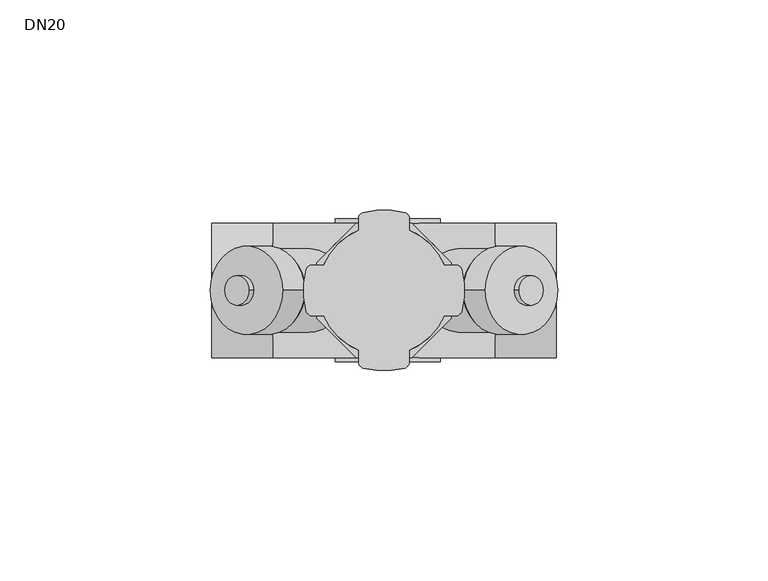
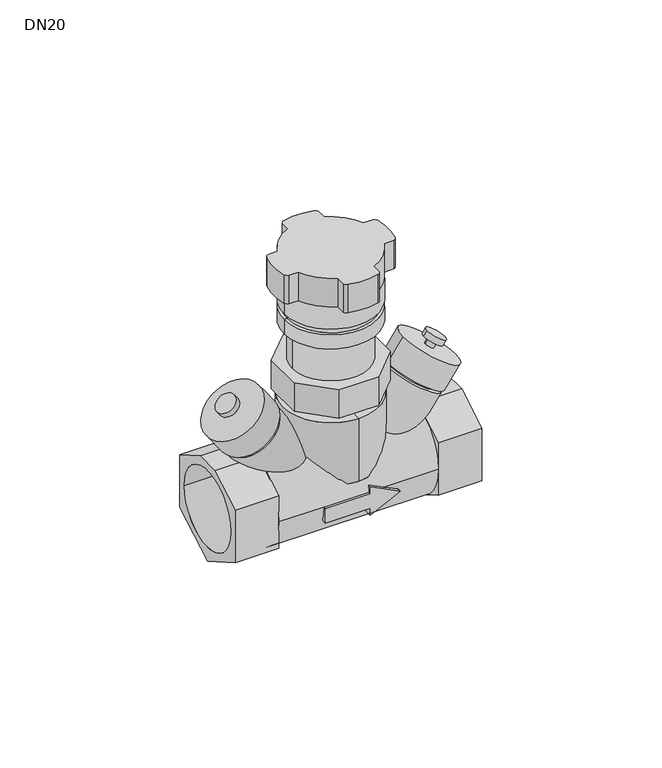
"""IFC4 building model written with IfcOpenShell, lengths in millimetres: valve geometry, 400_56_KOMF_ATZ : DN20."""

from ifc_helpers import new_model, si_unit, point, frame, frame_2d, origin, origin_2d, place, context, project, spatial, polyline, circle_curve, ellipse_curve, trimmed, segment, composite_curve, outline, extrude, source, transform, mapped, element, save
from ifc_brep_helpers import plane_surface, cylinder_surface, revolved_surface, advanced_brep


def dn20_bf711299(model_context):
    return source(origin(), model_context, "Body", "SolidModel", [
        advanced_brep(
        [(35.1614142, 0.0, 17.7961177), (18.7784319, 0.0, 29.2676054), (20.4167774, 0.0, 28.1204236), (33.5230687, 0.0, 18.9432996), (23.8246716, 0.0, 1.6055715), (7.4416893, 0.0, 13.0770591), (34.0966531, 0.0, 19.7624631), (20.9903618, 0.0, 28.9395871), (41.3067448, 0.0, 25.7008828), (24.1046544, 0.0, 37.7459162), (31.4768006, 0.0, 32.5838838), (33.9345986, 0.0, 30.8629152), (36.1445527, 0.0, 18.3285084), (18.9424623, 0.0, 30.3735418), (35.0817629, 0.0, 32.5012356), (32.623965, 0.0, 34.2222043), (37.867019, 0.0, 32.9924917), (32.132981, 0.0, 37.0075083), (36.719883, 0.0, 31.3542116), (30.985845, 0.0, 35.3692283)],
        [
            (0, 1, circle_curve(frame((26.969923, 0.0, 23.5318616), z_axis=(0.5735764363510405, 0.0, 0.8191520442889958), x_axis=(-0.8191520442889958, 0.0, 0.5735764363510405)), 9.9999642)),
            (1, 0, circle_curve(frame((26.969923, 0.0, 23.5318616), z_axis=(0.5735764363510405, 0.0, 0.8191520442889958), x_axis=(-0.8191520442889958, 0.0, 0.5735764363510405)), 9.9999642)),
            (2, 3, circle_curve(frame((26.969923, 0.0, 23.5318616), z_axis=(-0.5735764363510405, 0.0, -0.8191520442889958), x_axis=(-0.8191520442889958, 0.0, 0.5735764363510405)), 7.9999137)),
            (3, 2, circle_curve(frame((26.969923, 0.0, 23.5318616), z_axis=(-0.5735764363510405, 0.0, -0.8191520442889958), x_axis=(-0.8191520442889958, 0.0, 0.5735764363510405)), 7.9999137)),
            (4, 5, circle_curve(frame((15.6331805, 0.0, 7.3413153), z_axis=(-0.5735764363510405, 0.0, -0.8191520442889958), x_axis=(-0.8191520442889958, 0.0, 0.5735764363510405)), 9.9999642)),
            (5, 4, circle_curve(frame((15.6331805, 0.0, 7.3413153), z_axis=(-0.5735764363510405, 0.0, -0.8191520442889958), x_axis=(-0.8191520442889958, 0.0, 0.5735764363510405)), 9.9999642)),
            (1, 5),
            (4, 0),
            (6, 7, circle_curve(frame((27.5435075, 0.0, 24.3510251), z_axis=(-0.5735764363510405, 0.0, -0.8191520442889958), x_axis=(-0.8191520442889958, 0.0, 0.5735764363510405)), 7.9999137)),
            (7, 2),
            (3, 6),
            (7, 6, circle_curve(frame((27.5435075, 0.0, 24.3510251), z_axis=(-0.5735764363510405, 0.0, -0.8191520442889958), x_axis=(-0.8191520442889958, 0.0, 0.5735764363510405)), 7.9999137)),
            (8, 9, circle_curve(frame((32.7056996, 0.0, 31.7233995), z_axis=(0.5735764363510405, 0.0, 0.8191520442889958), x_axis=(-0.8191520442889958, 0.0, 0.5735764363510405)), 10.4999374)),
            (9, 8, circle_curve(frame((32.7056996, 0.0, 31.7233995), z_axis=(0.5735764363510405, 0.0, 0.8191520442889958), x_axis=(-0.8191520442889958, 0.0, 0.5735764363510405)), 10.4999374)),
            (10, 11, circle_curve(frame((32.7056996, 0.0, 31.7233995), z_axis=(-0.5735764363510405, 0.0, -0.8191520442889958), x_axis=(-0.8191520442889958, 0.0, 0.5735764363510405)), 1.5002086)),
            (11, 10, circle_curve(frame((32.7056996, 0.0, 31.7233995), z_axis=(-0.5735764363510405, 0.0, -0.8191520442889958), x_axis=(-0.8191520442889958, 0.0, 0.5735764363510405)), 1.5002086)),
            (12, 13, circle_curve(frame((27.5435075, 0.0, 24.3510251), z_axis=(-0.5735764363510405, 0.0, -0.8191520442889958), x_axis=(-0.8191520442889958, 0.0, 0.5735764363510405)), 10.4999374)),
            (13, 12, circle_curve(frame((27.5435075, 0.0, 24.3510251), z_axis=(-0.5735764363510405, 0.0, -0.8191520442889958), x_axis=(-0.8191520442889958, 0.0, 0.5735764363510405)), 10.4999374)),
            (9, 13),
            (12, 8),
            (14, 15, circle_curve(frame((33.852864, 0.0, 33.3617199), z_axis=(-0.5735764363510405, 0.0, -0.8191520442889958), x_axis=(-0.8191520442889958, 0.0, 0.5735764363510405)), 1.5002086)),
            (15, 10),
            (11, 14),
            (15, 14, circle_curve(frame((33.852864, 0.0, 33.3617199), z_axis=(-0.5735764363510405, 0.0, -0.8191520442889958), x_axis=(-0.8191520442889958, 0.0, 0.5735764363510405)), 1.5002086)),
            (16, 17, circle_curve(frame((35.0, 0.0, 35.0), z_axis=(0.5735764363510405, 0.0, 0.8191520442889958), x_axis=(-0.8191520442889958, 0.0, 0.5735764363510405)), 3.4999839)),
            (17, 16, circle_curve(frame((35.0, 0.0, 35.0), z_axis=(0.5735764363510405, 0.0, 0.8191520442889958), x_axis=(-0.8191520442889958, 0.0, 0.5735764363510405)), 3.4999839)),
            (18, 19, circle_curve(frame((33.852864, 0.0, 33.3617199), z_axis=(-0.5735764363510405, 0.0, -0.8191520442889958), x_axis=(-0.8191520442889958, 0.0, 0.5735764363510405)), 3.4999839)),
            (19, 18, circle_curve(frame((33.852864, 0.0, 33.3617199), z_axis=(-0.5735764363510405, 0.0, -0.8191520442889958), x_axis=(-0.8191520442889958, 0.0, 0.5735764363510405)), 3.4999839)),
            (17, 19),
            (18, 16),
        ],
        [
            plane_surface(frame((18.7784319, 0.0, 29.2676054), z_axis=(0.5735764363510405, 0.0, 0.8191520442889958), x_axis=(0.0, 1.0, 0.0))),
            plane_surface(frame((7.4416893, 0.0, 13.0770591), z_axis=(-0.5735764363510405, 0.0, -0.8191520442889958), x_axis=(0.0, -1.0, 0.0))),
            cylinder_surface(frame((15.6331805, 0.0, 7.3413153), z_axis=(0.5735764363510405, 0.0, 0.8191520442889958), x_axis=(-0.8191520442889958, 0.0, 0.5735764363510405)), 9.9999642),
            cylinder_surface(frame((18.939734, 0.0, 12.0635631), z_axis=(0.5735764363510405, 0.0, 0.8191520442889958), x_axis=(-0.8191520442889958, 0.0, 0.5735764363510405)), 7.9999137),
            plane_surface(frame((24.1046544, 0.0, 37.7459162), z_axis=(0.5735764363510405, 0.0, 0.8191520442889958), x_axis=(0.0, 1.0, 0.0))),
            plane_surface(frame((18.9424623, 0.0, 30.3735418), z_axis=(-0.5735764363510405, 0.0, -0.8191520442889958), x_axis=(0.0, -1.0, 0.0))),
            cylinder_surface(frame((27.5435075, 0.0, 24.3510251), z_axis=(0.5735764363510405, 0.0, 0.8191520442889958), x_axis=(-0.8191520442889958, 0.0, 0.5735764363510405)), 10.4999374),
            cylinder_surface(frame((32.7056996, 0.0, 31.7233995), z_axis=(0.5735764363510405, 0.0, 0.8191520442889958), x_axis=(-0.8191520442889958, 0.0, 0.5735764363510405)), 1.5002086),
            plane_surface(frame((32.132981, 0.0, 37.0075083), z_axis=(0.5735764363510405, 0.0, 0.8191520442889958), x_axis=(0.0, 1.0, 0.0))),
            plane_surface(frame((30.985845, 0.0, 35.3692283), z_axis=(-0.5735764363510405, 0.0, -0.8191520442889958), x_axis=(0.0, -1.0, 0.0))),
            cylinder_surface(frame((33.852864, 0.0, 33.3617199), z_axis=(0.5735764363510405, 0.0, 0.8191520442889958), x_axis=(-0.8191520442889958, 0.0, 0.5735764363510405)), 3.4999839),
        ],
        [
            (0, [[1, 2], [3, 4]]),
            (1, [[5, 6]]),
            (2, [[7, -5, 8, -2]]),
            (2, [[-8, -6, -7, -1]]),
            (3, [[9, 10, -4, 11]]),
            (3, [[-3, -10, 12, -11]]),
            (4, [[13, 14], [15, 16]]),
            (5, [[17, 18], [-12, -9]]),
            (6, [[19, -17, 20, -14]]),
            (6, [[-20, -18, -19, -13]]),
            (7, [[21, 22, -16, 23]]),
            (7, [[-15, -22, 24, -23]]),
            (8, [[25, 26]]),
            (9, [[27, 28], [-24, -21]]),
            (10, [[29, -27, 30, -26]]),
            (10, [[-30, -28, -29, -25]]),
        ],
    ),
        advanced_brep(
        [(-35.1614142, 0.0, 17.7961177), (-18.7784319, 0.0, 29.2676054), (-20.4167774, 0.0, 28.1204236), (-33.5230687, 0.0, 18.9432996), (-23.8246716, 0.0, 1.6055715), (-7.4416893, 0.0, 13.0770591), (-34.0966531, 0.0, 19.7624631), (-20.9903618, 0.0, 28.9395871), (-41.3067448, 0.0, 25.7008828), (-24.1046544, 0.0, 37.7459162), (-31.4768006, 0.0, 32.5838838), (-33.9345986, 0.0, 30.8629152), (-36.1445527, 0.0, 18.3285084), (-18.9424623, 0.0, 30.3735418), (-35.0817629, 0.0, 32.5012356), (-32.623965, 0.0, 34.2222043), (-37.867019, 0.0, 32.9924917), (-32.132981, 0.0, 37.0075083), (-36.719883, 0.0, 31.3542116), (-30.985845, 0.0, 35.3692283)],
        [
            (0, 1, circle_curve(frame((-26.969923, 0.0, 23.5318616), z_axis=(-0.5735764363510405, 0.0, 0.8191520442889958), x_axis=(0.8191520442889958, 0.0, 0.5735764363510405)), 9.9999642)),
            (1, 0, circle_curve(frame((-26.969923, 0.0, 23.5318616), z_axis=(-0.5735764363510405, 0.0, 0.8191520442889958), x_axis=(0.8191520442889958, 0.0, 0.5735764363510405)), 9.9999642)),
            (2, 3, circle_curve(frame((-26.969923, 0.0, 23.5318616), z_axis=(0.5735764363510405, 0.0, -0.8191520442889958), x_axis=(0.8191520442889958, 0.0, 0.5735764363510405)), 7.9999137)),
            (3, 2, circle_curve(frame((-26.969923, 0.0, 23.5318616), z_axis=(0.5735764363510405, 0.0, -0.8191520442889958), x_axis=(0.8191520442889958, 0.0, 0.5735764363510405)), 7.9999137)),
            (4, 5, circle_curve(frame((-15.6331805, 0.0, 7.3413153), z_axis=(0.5735764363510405, 0.0, -0.8191520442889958), x_axis=(0.8191520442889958, 0.0, 0.5735764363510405)), 9.9999642)),
            (5, 4, circle_curve(frame((-15.6331805, 0.0, 7.3413153), z_axis=(0.5735764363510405, 0.0, -0.8191520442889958), x_axis=(0.8191520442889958, 0.0, 0.5735764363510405)), 9.9999642)),
            (0, 4),
            (5, 1),
            (6, 3),
            (2, 7),
            (7, 6, circle_curve(frame((-27.5435075, 0.0, 24.3510251), z_axis=(0.5735764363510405, 0.0, -0.8191520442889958), x_axis=(0.8191520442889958, 0.0, 0.5735764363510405)), 7.9999137)),
            (6, 7, circle_curve(frame((-27.5435075, 0.0, 24.3510251), z_axis=(0.5735764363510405, 0.0, -0.8191520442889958), x_axis=(0.8191520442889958, 0.0, 0.5735764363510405)), 7.9999137)),
            (8, 9, circle_curve(frame((-32.7056996, 0.0, 31.7233995), z_axis=(-0.5735764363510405, 0.0, 0.8191520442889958), x_axis=(0.8191520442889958, 0.0, 0.5735764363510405)), 10.4999374)),
            (9, 8, circle_curve(frame((-32.7056996, 0.0, 31.7233995), z_axis=(-0.5735764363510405, 0.0, 0.8191520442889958), x_axis=(0.8191520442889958, 0.0, 0.5735764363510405)), 10.4999374)),
            (10, 11, circle_curve(frame((-32.7056996, 0.0, 31.7233995), z_axis=(0.5735764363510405, 0.0, -0.8191520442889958), x_axis=(0.8191520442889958, 0.0, 0.5735764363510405)), 1.5002086)),
            (11, 10, circle_curve(frame((-32.7056996, 0.0, 31.7233995), z_axis=(0.5735764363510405, 0.0, -0.8191520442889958), x_axis=(0.8191520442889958, 0.0, 0.5735764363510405)), 1.5002086)),
            (12, 13, circle_curve(frame((-27.5435075, 0.0, 24.3510251), z_axis=(0.5735764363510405, 0.0, -0.8191520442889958), x_axis=(0.8191520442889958, 0.0, 0.5735764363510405)), 10.4999374)),
            (13, 12, circle_curve(frame((-27.5435075, 0.0, 24.3510251), z_axis=(0.5735764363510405, 0.0, -0.8191520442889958), x_axis=(0.8191520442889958, 0.0, 0.5735764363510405)), 10.4999374)),
            (8, 12),
            (13, 9),
            (14, 11),
            (10, 15),
            (15, 14, circle_curve(frame((-33.852864, 0.0, 33.3617199), z_axis=(0.5735764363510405, 0.0, -0.8191520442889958), x_axis=(0.8191520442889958, 0.0, 0.5735764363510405)), 1.5002086)),
            (14, 15, circle_curve(frame((-33.852864, 0.0, 33.3617199), z_axis=(0.5735764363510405, 0.0, -0.8191520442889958), x_axis=(0.8191520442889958, 0.0, 0.5735764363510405)), 1.5002086)),
            (16, 17, circle_curve(frame((-35.0, 0.0, 35.0), z_axis=(-0.5735764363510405, 0.0, 0.8191520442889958), x_axis=(0.8191520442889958, 0.0, 0.5735764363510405)), 3.4999839)),
            (17, 16, circle_curve(frame((-35.0, 0.0, 35.0), z_axis=(-0.5735764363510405, 0.0, 0.8191520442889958), x_axis=(0.8191520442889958, 0.0, 0.5735764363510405)), 3.4999839)),
            (18, 19, circle_curve(frame((-33.852864, 0.0, 33.3617199), z_axis=(0.5735764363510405, 0.0, -0.8191520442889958), x_axis=(0.8191520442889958, 0.0, 0.5735764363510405)), 3.4999839)),
            (19, 18, circle_curve(frame((-33.852864, 0.0, 33.3617199), z_axis=(0.5735764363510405, 0.0, -0.8191520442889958), x_axis=(0.8191520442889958, 0.0, 0.5735764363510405)), 3.4999839)),
            (16, 18),
            (19, 17),
        ],
        [
            plane_surface(frame((-18.7784319, 0.0, 29.2676054), z_axis=(-0.5735764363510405, 0.0, 0.8191520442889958), x_axis=(0.0, 1.0, 0.0))),
            plane_surface(frame((-7.4416893, 0.0, 13.0770591), z_axis=(0.5735764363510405, 0.0, -0.8191520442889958), x_axis=(0.0, -1.0, 0.0))),
            cylinder_surface(frame((-15.6331805, 0.0, 7.3413153), z_axis=(-0.5735764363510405, 0.0, 0.8191520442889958), x_axis=(0.8191520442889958, 0.0, 0.5735764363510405)), 9.9999642),
            cylinder_surface(frame((-18.939734, 0.0, 12.0635631), z_axis=(-0.5735764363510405, 0.0, 0.8191520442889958), x_axis=(0.8191520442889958, 0.0, 0.5735764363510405)), 7.9999137),
            plane_surface(frame((-24.1046544, 0.0, 37.7459162), z_axis=(-0.5735764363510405, 0.0, 0.8191520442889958), x_axis=(0.0, 1.0, 0.0))),
            plane_surface(frame((-18.9424623, 0.0, 30.3735418), z_axis=(0.5735764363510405, 0.0, -0.8191520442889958), x_axis=(0.0, -1.0, 0.0))),
            cylinder_surface(frame((-27.5435075, 0.0, 24.3510251), z_axis=(-0.5735764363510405, 0.0, 0.8191520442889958), x_axis=(0.8191520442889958, 0.0, 0.5735764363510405)), 10.4999374),
            cylinder_surface(frame((-32.7056996, 0.0, 31.7233995), z_axis=(-0.5735764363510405, 0.0, 0.8191520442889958), x_axis=(0.8191520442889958, 0.0, 0.5735764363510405)), 1.5002086),
            plane_surface(frame((-32.132981, 0.0, 37.0075083), z_axis=(-0.5735764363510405, 0.0, 0.8191520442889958), x_axis=(0.0, 1.0, 0.0))),
            plane_surface(frame((-30.985845, 0.0, 35.3692283), z_axis=(0.5735764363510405, 0.0, -0.8191520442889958), x_axis=(0.0, -1.0, 0.0))),
            cylinder_surface(frame((-33.852864, 0.0, 33.3617199), z_axis=(-0.5735764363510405, 0.0, 0.8191520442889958), x_axis=(0.8191520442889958, 0.0, 0.5735764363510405)), 3.4999839),
        ],
        [
            (0, [[1, 2], [3, 4]]),
            (1, [[5, 6]]),
            (2, [[-1, 7, -6, 8]]),
            (2, [[-2, -8, -5, -7]]),
            (3, [[9, -3, 10, 11]]),
            (3, [[-9, 12, -10, -4]]),
            (4, [[13, 14], [15, 16]]),
            (5, [[17, 18], [-11, -12]]),
            (6, [[-13, 19, -18, 20]]),
            (6, [[-14, -20, -17, -19]]),
            (7, [[21, -15, 22, 23]]),
            (7, [[-21, 24, -22, -16]]),
            (8, [[25, 26]]),
            (9, [[27, 28], [-23, -24]]),
            (10, [[-25, 29, -28, 30]]),
            (10, [[-26, -30, -27, -29]]),
        ],
    ),
        advanced_brep(
        [(26.5, -15.9999998, -1e-07), (26.5, 16.0000002, -1e-07), (-26.5, -15.9999998, -1e-07), (-26.5, 16.0000002, -1e-07), (8.3504735, -15.9999998, -1e-07), (13.3504733, -15.8034804, -2.5), (3.3504733, -14.1332939, -7.5), (3.3504733, -15.198684, -5.0), (-11.6495267, -15.198684, -5.0), (-11.6495267, -15.9999998, -1e-07), (-11.6495267, 16.0000002, -1e-07), (-11.6495267, 15.1986844, -5.0), (3.3504733, 15.1986844, -5.0), (3.3504733, 14.1332943, -7.5), (13.3504733, 15.8034809, -2.5), (8.3504735, 16.0000002, -1e-07), (3.3504733, 15.8034808, 2.5), (3.3504733, 16.0000002, -1e-07), (3.3504733, -15.9999998, 0.0), (3.3504733, -15.8034804, 2.5), (3.3504733, -17.0, 0.0), (-11.6495267, -17.0, 0.0), (-11.6495267, -17.0, -5.0), (3.3504733, -17.0, -5.0), (3.3504733, -17.0, -7.5), (13.3504733, -17.0, -2.5), (3.3504733, -17.0, 2.5), (3.3504733, 17.0, 0.0), (3.3504733, 17.0, 2.5), (13.3504733, 17.0, -2.5), (3.3504733, 17.0, -7.5), (3.3504733, 17.0, -5.0), (-11.6495267, 17.0, -5.0), (-11.6495267, 17.0, 0.0)],
        [
            (0, 1, circle_curve(frame((26.5, 2e-07, -1e-07), z_axis=(1.0, 0.0, 0.0), x_axis=(0.0, 1.0, 0.0)), 16.0)),
            (1, 0, circle_curve(frame((26.5, 2e-07, -1e-07), z_axis=(1.0, 0.0, 0.0), x_axis=(0.0, 1.0, 0.0)), 16.0)),
            (2, 3, circle_curve(frame((-26.5, 2e-07, -1e-07), z_axis=(-1.0, 0.0, 0.0), x_axis=(0.0, 1.0, 0.0)), 16.0)),
            (3, 2, circle_curve(frame((-26.5, 2e-07, -1e-07), z_axis=(-1.0, 0.0, 0.0), x_axis=(0.0, 1.0, 0.0)), 16.0)),
            (0, 4),
            (4, 5, ellipse_curve(frame((8.3504735, 2e-07, -1e-07), z_axis=(0.44721359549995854, 0.0, 0.8944271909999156), x_axis=(0.8944271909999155, 0.0, -0.4472135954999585)), 35.7770876, 16.0)),
            (5, 6, ellipse_curve(frame((18.3504731, 2e-07, -1e-07), z_axis=(0.4472135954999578, 0.0, -0.894427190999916), x_axis=(0.894427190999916, 0.0, 0.44721359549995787)), 35.7770876, 16.0)),
            (6, 7, circle_curve(frame((3.3504733, 2e-07, -1e-07), z_axis=(-1.0, 0.0, 0.0), x_axis=(0.0, 1.0, 0.0)), 16.0)),
            (7, 8),
            (8, 9, circle_curve(frame((-11.6495267, 2e-07, -1e-07), z_axis=(-1.0, 0.0, 0.0), x_axis=(0.0, 1.0, 0.0)), 16.0)),
            (9, 2),
            (3, 10),
            (10, 11, circle_curve(frame((-11.6495267, 2e-07, -1e-07), z_axis=(-1.0, 0.0, 0.0), x_axis=(0.0, 1.0, 0.0)), 16.0)),
            (11, 12),
            (12, 13, circle_curve(frame((3.3504733, 2e-07, -1e-07), z_axis=(-1.0, 0.0, 0.0), x_axis=(0.0, 1.0, 0.0)), 16.0)),
            (13, 14, ellipse_curve(frame((18.3504731, 2e-07, -1e-07), z_axis=(0.4472135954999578, 0.0, -0.894427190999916), x_axis=(0.894427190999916, 0.0, 0.44721359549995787)), 35.7770876, 16.0)),
            (14, 15, ellipse_curve(frame((8.3504735, 2e-07, -1e-07), z_axis=(0.44721359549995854, 0.0, 0.8944271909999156), x_axis=(0.8944271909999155, 0.0, -0.4472135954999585)), 35.7770876, 16.0)),
            (15, 1),
            (15, 16, ellipse_curve(frame((8.3504735, 2e-07, -1e-07), z_axis=(0.44721359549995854, 0.0, 0.8944271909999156), x_axis=(0.8944271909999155, 0.0, -0.4472135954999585)), 35.7770876, 16.0)),
            (16, 17, circle_curve(frame((3.3504733, 2e-07, -1e-07), z_axis=(-1.0, 0.0, 0.0), x_axis=(0.0, 1.0, 0.0)), 16.0)),
            (17, 10),
            (9, 18),
            (18, 19, circle_curve(frame((3.3504733, 2e-07, -1e-07), z_axis=(-1.0, 0.0, 0.0), x_axis=(0.0, 1.0, 0.0)), 16.0)),
            (19, 4, ellipse_curve(frame((8.3504735, 2e-07, -1e-07), z_axis=(0.44721359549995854, 0.0, 0.8944271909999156), x_axis=(0.8944271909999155, 0.0, -0.4472135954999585)), 35.7770876, 16.0)),
            (20, 21),
            (21, 22),
            (22, 23),
            (23, 24),
            (24, 25),
            (25, 26),
            (26, 20),
            (27, 28),
            (28, 29),
            (29, 30),
            (30, 31),
            (31, 32),
            (32, 33),
            (33, 27),
            (21, 9),
            (8, 22),
            (32, 11),
            (10, 33),
            (7, 23),
            (31, 12),
            (6, 24),
            (30, 13),
            (5, 25),
            (29, 14),
            (19, 26),
            (28, 16),
            (18, 20),
            (27, 17),
        ],
        [
            plane_surface(frame((26.5, 16.0000002, -1e-07), z_axis=(1.0, 0.0, 0.0), x_axis=(0.0, 0.0, 1.0))),
            plane_surface(frame((-26.5, 16.0000002, -1e-07), z_axis=(-1.0, 0.0, 0.0), x_axis=(0.0, 0.0, -1.0))),
            cylinder_surface(frame((-26.5, 2e-07, -1e-07), z_axis=(1.0, 0.0, 0.0), x_axis=(0.0, 1.0, 0.0)), 16.0),
            plane_surface(frame((-11.6495267, -17.0, 0.0), z_axis=(0.0, -1.0, 0.0), x_axis=(-1.0, 0.0, 0.0))),
            plane_surface(frame((-11.6495267, 17.0, 0.0), z_axis=(0.0, 1.0, 0.0), x_axis=(1.0, 0.0, 0.0))),
            plane_surface(frame((-11.6495267, -17.0, 0.0), z_axis=(-1.0, 0.0, 0.0), x_axis=(0.0, 1.0, 0.0))),
            plane_surface(frame((-11.6495267, -17.0, -5.0), z_axis=(0.0, 0.0, -1.0), x_axis=(0.0, 1.0, 0.0))),
            plane_surface(frame((3.3504733, -17.0, -5.0), z_axis=(-1.0, 0.0, 0.0), x_axis=(0.0, 1.0, 0.0))),
            plane_surface(frame((3.3504733, -17.0, -7.5), z_axis=(0.4472135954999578, 0.0, -0.894427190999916), x_axis=(0.0, 1.0, 0.0))),
            plane_surface(frame((13.3504733, -17.0, -2.5), z_axis=(0.44721359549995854, 0.0, 0.8944271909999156), x_axis=(0.0, 1.0, 0.0))),
            plane_surface(frame((3.3504733, -17.0, 2.5), z_axis=(-1.0, 0.0, 0.0), x_axis=(0.0, 1.0, 0.0))),
            plane_surface(frame((3.3504733, -17.0, 0.0), z_axis=(0.0, 0.0, 1.0), x_axis=(0.0, 1.0, 0.0))),
        ],
        [
            (0, [[1, 2]]),
            (1, [[3, 4]]),
            (2, [[-1, 5, 6, 7, 8, 9, 10, 11, -4, 12, 13, 14, 15, 16, 17, 18]]),
            (2, [[-2, -18, 19, 20, 21, -12, -3, -11, 22, 23, 24, -5]]),
            (3, [[25, 26, 27, 28, 29, 30, 31]]),
            (4, [[32, 33, 34, 35, 36, 37, 38]]),
            (5, [[-26, 39, -10, 40]]),
            (5, [[-37, 41, -13, 42]]),
            (6, [[-27, -40, -9, 43]]),
            (6, [[-36, 44, -14, -41]]),
            (7, [[-28, -43, -8, 45]]),
            (7, [[-35, 46, -15, -44]]),
            (8, [[-29, -45, -7, 47]]),
            (8, [[-34, 48, -16, -46]]),
            (9, [[-30, -47, -6, -24, 49]]),
            (9, [[-33, 50, -19, -17, -48]]),
            (10, [[-31, -49, -23, 51]]),
            (10, [[-32, 52, -20, -50]]),
            (11, [[-25, -51, -22, -39]]),
            (11, [[-38, -42, -21, -52]]),
        ],
    ),
        extrude(outline(polyline([(16.0, 9.2376038), (16.0, -9.2376043), (-4e-07, -18.4752089), (-16.0, -9.2376048), (-16.0, 9.2376043), (-4.2871871, 16.0), (4.2871863, 16.0), (16.0, 9.2376038)]), holes=[composite_curve([segment(trimmed(circle_curve(origin_2d(), 13.45), [point((-13.45, 0.0))], [point((13.45, 0.0))], True, "CARTESIAN"), True, "CONTINUOUS"), segment(trimmed(circle_curve(origin_2d(), 13.45), [point((13.45, 0.0))], [point((-13.45, 0.0))], True, "CARTESIAN"), True, "CONTINUOUS")], self_intersect=False)]), frame((26.5, 0.0, 0.0), z_axis=(1.0, 0.0, 0.0), x_axis=(0.0, 1.0, 0.0)), (0.0, 0.0, 1.0), 14.5),
        extrude(outline(polyline([(16.0, 9.2376038), (16.0, -9.2376043), (-4e-07, -18.4752089), (-16.0, -9.2376048), (-16.0, 9.2376043), (-4.2871871, 16.0), (4.2871863, 16.0), (16.0, 9.2376038)]), holes=[composite_curve([segment(trimmed(circle_curve(origin_2d(), 13.45), [point((-13.45, 0.0))], [point((13.45, 0.0))], True, "CARTESIAN"), True, "CONTINUOUS"), segment(trimmed(circle_curve(origin_2d(), 13.45), [point((13.45, 0.0))], [point((-13.45, 0.0))], True, "CARTESIAN"), True, "CONTINUOUS")], self_intersect=False)]), frame((-41.0, 0.0, 0.0), z_axis=(1.0, 0.0, 0.0), x_axis=(0.0, 1.0, 0.0)), (0.0, 0.0, 1.0), 14.5),
        advanced_brep(
        [(0.0, -16.0, 27.0), (0.0, 16.0, 27.0), (0.0, 16.0, 5.0000003), (0.0, -16.0, 5.0000003), (0.0, -12.0000003, 27.0), (0.0, 12.0000003, 27.0), (0.0, -12.0000003, 35.0), (0.0, 12.0000003, 35.0), (0.0, 0.0, 35.0), (0.0, -13.0000003, 2.0), (0.0, 13.0000003, 2.0), (0.0, 0.0, 2.0)],
        [
            (0, 1, circle_curve(frame((0.0, 0.0, 27.0), z_axis=(0.0, 0.0, -1.0), x_axis=(0.0, 1.0, 0.0)), 16.0)),
            (1, 2),
            (2, 3, circle_curve(frame((0.0, 0.0, 5.0000003), z_axis=(0.0, 0.0, 1.0), x_axis=(0.0, 1.0, 0.0)), 16.0)),
            (3, 0),
            (1, 0, circle_curve(frame((0.0, 0.0, 27.0), z_axis=(0.0, 0.0, -1.0), x_axis=(0.0, 1.0, 0.0)), 16.0)),
            (3, 2, circle_curve(frame((0.0, 0.0, 5.0000003), z_axis=(0.0, 0.0, 1.0), x_axis=(0.0, 1.0, 0.0)), 16.0)),
            (4, 5, circle_curve(frame((0.0, 0.0, 27.0), z_axis=(0.0, 0.0, -1.0), x_axis=(0.0, 1.0, 0.0)), 12.0000003)),
            (5, 1),
            (0, 4),
            (5, 4, circle_curve(frame((0.0, 0.0, 27.0), z_axis=(0.0, 0.0, -1.0), x_axis=(0.0, 1.0, 0.0)), 12.0000003)),
            (6, 7, circle_curve(frame((0.0, 0.0, 35.0), z_axis=(0.0, 0.0, -1.0), x_axis=(0.0, 1.0, 0.0)), 12.0000003)),
            (7, 5),
            (4, 6),
            (7, 6, circle_curve(frame((0.0, 0.0, 35.0), z_axis=(0.0, 0.0, -1.0), x_axis=(0.0, 1.0, 0.0)), 12.0000003)),
            (8, 7),
            (6, 8),
            (9, 10, circle_curve(frame((0.0, 0.0, 2.0), z_axis=(0.0, 0.0, -1.0), x_axis=(0.0, 1.0, 0.0)), 13.0000003)),
            (10, 11),
            (11, 9),
            (10, 9, circle_curve(frame((0.0, 0.0, 2.0), z_axis=(0.0, 0.0, -1.0), x_axis=(0.0, 1.0, 0.0)), 13.0000003)),
            (2, 10),
            (9, 3),
        ],
        [
            cylinder_surface(frame((0.0, 0.0, 1440.3704342), z_axis=(0.0, 0.0, 1.0), x_axis=(0.0, 1.0, 0.0)), 16.0),
            plane_surface(frame((0.0, 0.0, 27.0), z_axis=(0.0, 0.0, 1.0), x_axis=(0.0, 1.0, 0.0))),
            cylinder_surface(frame((0.0, 0.0, 1440.3704342), z_axis=(0.0, 0.0, 1.0), x_axis=(0.0, 1.0, 0.0)), 12.0000003),
            plane_surface(frame((0.0, 0.0, 35.0), z_axis=(0.0, 0.0, 1.0), x_axis=(0.0, 1.0, 0.0))),
            plane_surface(frame((0.0, 0.0, 2.0), z_axis=(0.0, 0.0, -1.0), x_axis=(0.0, 1.0, 0.0))),
            revolved_surface(polyline([(0.0, 13.0000003, 2.0), (0.0, 16.0, 5.0000003)]), (0.0, 0.0, 1440.3704342), (0.0, 0.0, 1.0)),
        ],
        [
            (0, [[1, 2, 3, 4]]),
            (0, [[5, -4, 6, -2]]),
            (1, [[7, 8, -1, 9]]),
            (1, [[10, -9, -5, -8]]),
            (2, [[11, 12, -7, 13]]),
            (2, [[14, -13, -10, -12]]),
            (3, [[15, -11, 16]]),
            (3, [[-16, -14, -15]]),
            (4, [[17, 18, 19]]),
            (4, [[20, -19, -18]]),
            (5, [[-3, 21, -17, 22]]),
            (5, [[-6, -22, -20, -21]]),
        ],
    ),
        extrude(outline(composite_curve([segment(polyline([(-5.999999, 14.2916074), (-5.999999, 17.5000013)]), True, "CONTINUOUS"), segment(trimmed(circle_curve(frame_2d((-4.3362017, 16.836203)), 1.7913262), [point((-5.999999, 17.5000013))], [point((-5.0, 18.5000003))], False, "CARTESIAN"), True, "CONTINUOUS"), segment(trimmed(circle_curve(frame_2d((0.0, -1.7021075)), 20.8116592), [point((-5.0, 18.5000003))], [point((5.0, 18.5000003))], False, "CARTESIAN"), True, "CONTINUOUS"), segment(trimmed(circle_curve(frame_2d((4.177133, 16.6771324)), 1.9999894), [point((5.0, 18.5000003))], [point((6.000001, 17.4999994))], False, "CARTESIAN"), True, "CONTINUOUS"), segment(polyline([(6.000001, 17.4999994), (6.000001, 14.2916074)]), True, "CONTINUOUS"), segment(trimmed(circle_curve(frame_2d((1e-06, 1e-06)), 15.5000005), [point((6.000001, 14.2916074))], [point((14.2916074, 6.000001))], False, "CARTESIAN"), True, "CONTINUOUS"), segment(polyline([(14.2916074, 6.000001), (17.5, 6.000001)]), True, "CONTINUOUS"), segment(trimmed(circle_curve(frame_2d((16.6771331, 4.177133)), 1.9999894), [point((17.5, 6.000001))], [point((18.500001, 5.0))], False, "CARTESIAN"), True, "CONTINUOUS"), segment(trimmed(circle_curve(frame_2d((-1.7021075, 0.0)), 20.8116599), [point((18.500001, 5.0))], [point((18.500001, -5.0))], False, "CARTESIAN"), True, "CONTINUOUS"), segment(trimmed(circle_curve(frame_2d((16.8362037, -4.3362017)), 1.7913262), [point((18.500001, -5.0))], [point((17.500002, -5.999999))], False, "CARTESIAN"), True, "CONTINUOUS"), segment(polyline([(17.500002, -5.999999), (14.2916074, -5.999999)]), True, "CONTINUOUS"), segment(trimmed(circle_curve(frame_2d((1e-06, 1e-06)), 15.5000005), [point((14.2916074, -5.999999))], [point((6.000001, -14.2916054))], False, "CARTESIAN"), True, "CONTINUOUS"), segment(polyline([(6.000001, -14.2916054), (6.000001, -17.4999974)]), True, "CONTINUOUS"), segment(trimmed(circle_curve(frame_2d((4.177133, -16.6771304)), 1.9999894), [point((6.000001, -17.4999974))], [point((5.0, -18.4999984))], False, "CARTESIAN"), True, "CONTINUOUS"), segment(trimmed(circle_curve(frame_2d((0.0, 1.7021094)), 20.8116592), [point((5.0, -18.4999984))], [point((-5.0, -18.4999984))], False, "CARTESIAN"), True, "CONTINUOUS"), segment(trimmed(circle_curve(frame_2d((-4.3362017, -16.8362011)), 1.7913262), [point((-5.0, -18.4999984))], [point((-5.999999, -17.4999994))], False, "CARTESIAN"), True, "CONTINUOUS"), segment(polyline([(-5.999999, -17.4999994), (-5.999999, -14.2916054)]), True, "CONTINUOUS"), segment(trimmed(circle_curve(frame_2d((1e-06, 1e-06)), 15.5000005), [point((-5.999999, -14.2916054))], [point((-14.2916054, -5.999999))], False, "CARTESIAN"), True, "CONTINUOUS"), segment(polyline([(-14.2916054, -5.999999), (-17.5, -5.999999)]), True, "CONTINUOUS"), segment(trimmed(circle_curve(frame_2d((-16.8362017, -4.3362017)), 1.7913262), [point((-17.5, -5.999999))], [point((-18.499999, -5.0))], False, "CARTESIAN"), True, "CONTINUOUS"), segment(trimmed(circle_curve(frame_2d((1.7021094, 0.0)), 20.8116599), [point((-18.499999, -5.0))], [point((-18.499999, 5.0))], False, "CARTESIAN"), True, "CONTINUOUS"), segment(trimmed(circle_curve(frame_2d((-16.6771311, 4.177133)), 1.9999894), [point((-18.499999, 5.0))], [point((-17.4999981, 6.000001))], False, "CARTESIAN"), True, "CONTINUOUS"), segment(polyline([(-17.4999981, 6.000001), (-14.2916054, 6.000001)]), True, "CONTINUOUS"), segment(trimmed(circle_curve(frame_2d((1e-06, 1e-06)), 15.5000005), [point((-14.2916054, 6.000001))], [point((-5.999999, 14.2916074))], False, "CARTESIAN"), True, "CONTINUOUS")], self_intersect=False)), frame((0.0, 0.0, 67.4999996), z_axis=(0.0, 0.0, 1.0), x_axis=(1.0, 0.0, 0.0)), (0.0, 0.0, 1.0), 10.0000028),
        advanced_brep(
        [(15.5000005, 0.0, 59.6249979), (-15.5000005, 0.0, 59.6249979), (-15.5000005, 0.0, 67.4999996), (15.5000005, 0.0, 67.4999996), (14.4686689, 0.0, 59.6249979), (-14.4686689, 0.0, 59.6249979), (14.4686689, 0.0, 57.6250019), (-14.4686689, 0.0, 57.6250019), (15.5000005, 0.0, 57.6250019), (-15.5000005, 0.0, 57.6250019), (15.5000005, 0.0, 52.6401003), (-15.5000005, 0.0, 52.6401003), (12.7500002, 0.0, 52.6401003), (-12.7500002, 0.0, 52.6401003), (12.7500002, 0.0, 39.5000008), (-12.7500002, 0.0, 39.5000008), (0.0, 0.0, 39.5000008), (0.0, 0.0, 67.4999996)],
        [
            (0, 1, circle_curve(frame((0.0, 0.0, 59.6249979), z_axis=(0.0, 0.0, 1.0), x_axis=(-1.0, 0.0, 0.0)), 15.5000005)),
            (1, 2),
            (2, 3, circle_curve(frame((0.0, 0.0, 67.4999996), z_axis=(0.0, 0.0, -1.0), x_axis=(-1.0, 0.0, 0.0)), 15.5000005)),
            (3, 0),
            (1, 0, circle_curve(frame((0.0, 0.0, 59.6249979), z_axis=(0.0, 0.0, 1.0), x_axis=(-1.0, 0.0, 0.0)), 15.5000005)),
            (3, 2, circle_curve(frame((0.0, 0.0, 67.4999996), z_axis=(0.0, 0.0, -1.0), x_axis=(-1.0, 0.0, 0.0)), 15.5000005)),
            (4, 5, circle_curve(frame((0.0, 0.0, 59.6249979), z_axis=(0.0, 0.0, 1.0), x_axis=(-1.0, 0.0, 0.0)), 14.4686689)),
            (5, 1),
            (0, 4),
            (5, 4, circle_curve(frame((0.0, 0.0, 59.6249979), z_axis=(0.0, 0.0, 1.0), x_axis=(-1.0, 0.0, 0.0)), 14.4686689)),
            (6, 7, circle_curve(frame((0.0, 0.0, 57.6250019), z_axis=(0.0, 0.0, 1.0), x_axis=(-1.0, 0.0, 0.0)), 14.4686689)),
            (7, 5),
            (4, 6),
            (7, 6, circle_curve(frame((0.0, 0.0, 57.6250019), z_axis=(0.0, 0.0, 1.0), x_axis=(-1.0, 0.0, 0.0)), 14.4686689)),
            (8, 9, circle_curve(frame((0.0, 0.0, 57.6250019), z_axis=(0.0, 0.0, 1.0), x_axis=(-1.0, 0.0, 0.0)), 15.5000005)),
            (9, 7),
            (6, 8),
            (9, 8, circle_curve(frame((0.0, 0.0, 57.6250019), z_axis=(0.0, 0.0, 1.0), x_axis=(-1.0, 0.0, 0.0)), 15.5000005)),
            (10, 11, circle_curve(frame((0.0, 0.0, 52.6401003), z_axis=(0.0, 0.0, 1.0), x_axis=(-1.0, 0.0, 0.0)), 15.5000005)),
            (11, 9),
            (8, 10),
            (11, 10, circle_curve(frame((0.0, 0.0, 52.6401003), z_axis=(0.0, 0.0, 1.0), x_axis=(-1.0, 0.0, 0.0)), 15.5000005)),
            (12, 13, circle_curve(frame((0.0, 0.0, 52.6401003), z_axis=(0.0, 0.0, 1.0), x_axis=(-1.0, 0.0, 0.0)), 12.7500002)),
            (13, 11),
            (10, 12),
            (13, 12, circle_curve(frame((0.0, 0.0, 52.6401003), z_axis=(0.0, 0.0, 1.0), x_axis=(-1.0, 0.0, 0.0)), 12.7500002)),
            (14, 15, circle_curve(frame((0.0, 0.0, 39.5000008), z_axis=(0.0, 0.0, 1.0), x_axis=(-1.0, 0.0, 0.0)), 12.7500002)),
            (15, 13),
            (12, 14),
            (15, 14, circle_curve(frame((0.0, 0.0, 39.5000008), z_axis=(0.0, 0.0, 1.0), x_axis=(-1.0, 0.0, 0.0)), 12.7500002)),
            (16, 15),
            (14, 16),
            (2, 17),
            (17, 3),
        ],
        [
            cylinder_surface(frame((0.0, 0.0, 37.6250008), z_axis=(0.0, 0.0, -1.0), x_axis=(-1.0, 0.0, 0.0)), 15.5000005),
            plane_surface(frame((0.0, 0.0, 59.6249979), z_axis=(0.0, 0.0, -1.0), x_axis=(-1.0, 0.0, 0.0))),
            cylinder_surface(frame((0.0, 0.0, 37.6250008), z_axis=(0.0, 0.0, -1.0), x_axis=(-1.0, 0.0, 0.0)), 14.4686689),
            plane_surface(frame((0.0, 0.0, 57.6250019), z_axis=(0.0, 0.0, 1.0), x_axis=(-1.0, 0.0, 0.0))),
            plane_surface(frame((0.0, 0.0, 52.6401003), z_axis=(0.0, 0.0, -1.0), x_axis=(-1.0, 0.0, 0.0))),
            cylinder_surface(frame((0.0, 0.0, 37.6250008), z_axis=(0.0, 0.0, -1.0), x_axis=(-1.0, 0.0, 0.0)), 12.7500002),
            plane_surface(frame((0.0, 0.0, 39.5000008), z_axis=(0.0, 0.0, -1.0), x_axis=(-1.0, 0.0, 0.0))),
            plane_surface(frame((0.0, 0.0, 67.4999996), z_axis=(0.0, 0.0, 1.0), x_axis=(-1.0, 0.0, 0.0))),
        ],
        [
            (0, [[1, 2, 3, 4]]),
            (0, [[5, -4, 6, -2]]),
            (1, [[7, 8, -1, 9]]),
            (1, [[10, -9, -5, -8]]),
            (2, [[11, 12, -7, 13]]),
            (2, [[14, -13, -10, -12]]),
            (3, [[15, 16, -11, 17]]),
            (3, [[18, -17, -14, -16]]),
            (0, [[19, 20, -15, 21]]),
            (0, [[22, -21, -18, -20]]),
            (4, [[23, 24, -19, 25]]),
            (4, [[26, -25, -22, -24]]),
            (5, [[27, 28, -23, 29]]),
            (5, [[30, -29, -26, -28]]),
            (6, [[31, -27, 32]]),
            (6, [[-32, -30, -31]]),
            (7, [[-3, 33, 34]]),
            (7, [[-6, -34, -33]]),
        ],
    ),
        extrude(outline(polyline([(16.0000006, 6.6274173), (16.0000006, -6.6274173), (6.6274173, -15.9999999), (-6.6274173, -15.9999999), (-16.0000006, -6.6274173), (-16.0000006, 6.6274173), (-6.6274173, 15.9999999), (6.6274173, 15.9999999), (16.0000006, 6.6274173)])), frame((0.0, 0.0, 29.5000003), z_axis=(0.0, 0.0, 1.0), x_axis=(1.0, 0.0, 0.0)), (0.0, 0.0, 1.0), 10.0000005),
    ])


if __name__ == "__main__":
    model = new_model("IFC4")
    model_context = context("Model", 3, world=origin())
    ifc_project = project(units=[si_unit("LENGTHUNIT", "METRE", prefix="MILLI")], contexts=[model_context])
    site = spatial("IfcSite", under=ifc_project)
    building = spatial("IfcBuilding", under=site)
    placement = place(None, origin())
    dn20_shape = dn20_bf711299(model_context)
    element("IfcValve", 1, ObjectType="400_56_KOMF_ATZ : DN20", at=placement, inside=building, context=model_context, shape_type="MappedRepresentation", body=[
        mapped(dn20_shape, transform((0.0, 0.0, 0.0), x_axis=(1.0, 0.0, 0.0), y_axis=(0.0, 1.0, 0.0), z_axis=(0.0, 0.0, 1.0))),
    ])
    save(model, "model.ifc")
